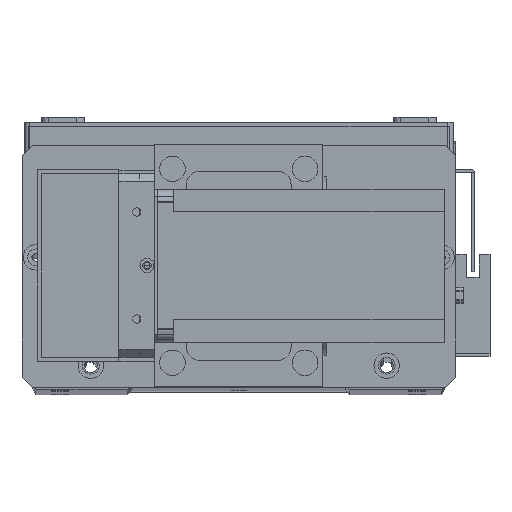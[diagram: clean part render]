
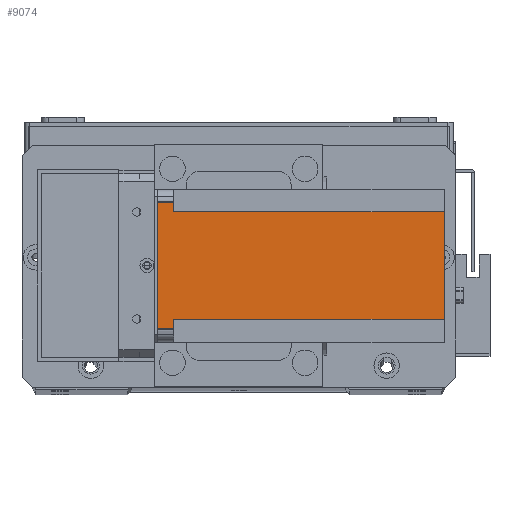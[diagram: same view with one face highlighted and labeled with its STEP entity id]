
A CAD part, top view. The second image highlights one B-rep face of the part: STEP entity #9074.
In plain terms, the highlighted planar face has unit normal (0, 0, 1) as drawn and (-1, 0, 0) by its records, which use the part's own axes.
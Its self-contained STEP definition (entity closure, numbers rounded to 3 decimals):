
#8 = CARTESIAN_POINT ( 'NONE',  ( 0., 55., -6.5 ) ) ;
#726 = ORIENTED_EDGE ( 'NONE', *, *, #11889, .F. ) ;
#1671 = DIRECTION ( 'NONE',  ( 0., 1., 0. ) ) ;
#2475 = DIRECTION ( 'NONE',  ( 0., 0., 1. ) ) ;
#3738 = VERTEX_POINT ( 'NONE', #30699 ) ;
#4177 = VECTOR ( 'NONE', #2475, 1000. ) ;
#4251 = CARTESIAN_POINT ( 'NONE',  ( 0., 55., 0. ) ) ;
#4407 = LINE ( 'NONE', #31592, #16612 ) ;
#4592 = DIRECTION ( 'NONE',  ( 0., 0., -1. ) ) ;
#4980 = CARTESIAN_POINT ( 'NONE',  ( 0., 51., -6.5 ) ) ;
#5082 = VERTEX_POINT ( 'NONE', #16060 ) ;
#8797 = EDGE_CURVE ( 'NONE', #11600, #21113, #8981, .T. ) ;
#8804 = LINE ( 'NONE', #9977, #21065 ) ;
#8981 = LINE ( 'NONE', #11151, #15511 ) ;
#9012 = EDGE_CURVE ( 'NONE', #5082, #11541, #4407, .T. ) ;
#9074 = ADVANCED_FACE ( 'NONE', ( #14361 ), #24598, .T. ) ;
#9206 = LINE ( 'NONE', #22629, #28855 ) ;
#9723 = ORIENTED_EDGE ( 'NONE', *, *, #21047, .T. ) ;
#9854 = CARTESIAN_POINT ( 'NONE',  ( 0., 0., -112.5 ) ) ;
#9977 = CARTESIAN_POINT ( 'NONE',  ( 0., 0., -112.5 ) ) ;
#10089 = ORIENTED_EDGE ( 'NONE', *, *, #8797, .F. ) ;
#10725 = LINE ( 'NONE', #31095, #20706 ) ;
#11151 = CARTESIAN_POINT ( 'NONE',  ( 0., 0., 0. ) ) ;
#11541 = VERTEX_POINT ( 'NONE', #18576 ) ;
#11600 = VERTEX_POINT ( 'NONE', #4251 ) ;
#11889 = EDGE_CURVE ( 'NONE', #26579, #29670, #13464, .T. ) ;
#12250 = CARTESIAN_POINT ( 'NONE',  ( 0., 51., -112.5 ) ) ;
#12323 = DIRECTION ( 'NONE',  ( -1., 0., 0. ) ) ;
#12785 = ORIENTED_EDGE ( 'NONE', *, *, #29794, .F. ) ;
#13464 = LINE ( 'NONE', #12250, #25799 ) ;
#13587 = EDGE_CURVE ( 'NONE', #5082, #21113, #23717, .T. ) ;
#13654 = DIRECTION ( 'NONE',  ( 0., -1., 0. ) ) ;
#14361 = FACE_OUTER_BOUND ( 'NONE', #26021, .T. ) ;
#15330 = DIRECTION ( 'NONE',  ( 0., 0., -1. ) ) ;
#15511 = VECTOR ( 'NONE', #13654, 1000. ) ;
#15539 = AXIS2_PLACEMENT_3D ( 'NONE', #9854, #12323, #29565 ) ;
#16060 = CARTESIAN_POINT ( 'NONE',  ( 0., 5., -6.5 ) ) ;
#16612 = VECTOR ( 'NONE', #24269, 1000. ) ;
#16734 = CARTESIAN_POINT ( 'NONE',  ( 0., 55., -112.5 ) ) ;
#18576 = CARTESIAN_POINT ( 'NONE',  ( 0., 9., -6.5 ) ) ;
#18675 = CARTESIAN_POINT ( 'NONE',  ( 0., 51., -112.5 ) ) ;
#19689 = CARTESIAN_POINT ( 'NONE',  ( 0., 5., -112.5 ) ) ;
#19891 = ORIENTED_EDGE ( 'NONE', *, *, #9012, .F. ) ;
#20706 = VECTOR ( 'NONE', #1671, 1000. ) ;
#21047 = EDGE_CURVE ( 'NONE', #11600, #22751, #22362, .T. ) ;
#21065 = VECTOR ( 'NONE', #22208, 1000. ) ;
#21113 = VERTEX_POINT ( 'NONE', #24312 ) ;
#21599 = ORIENTED_EDGE ( 'NONE', *, *, #13587, .T. ) ;
#22208 = DIRECTION ( 'NONE',  ( 0., -1., 0. ) ) ;
#22362 = LINE ( 'NONE', #16734, #27417 ) ;
#22629 = CARTESIAN_POINT ( 'NONE',  ( 0., 9., -112.5 ) ) ;
#22751 = VERTEX_POINT ( 'NONE', #8 ) ;
#23717 = LINE ( 'NONE', #19689, #4177 ) ;
#24269 = DIRECTION ( 'NONE',  ( 0., 1., 0. ) ) ;
#24312 = CARTESIAN_POINT ( 'NONE',  ( 0., 5., 0. ) ) ;
#24598 = PLANE ( 'NONE',  #15539 ) ;
#24853 = DIRECTION ( 'NONE',  ( 0., 0., 1. ) ) ;
#25799 = VECTOR ( 'NONE', #24853, 1000. ) ;
#26021 = EDGE_LOOP ( 'NONE', ( #19891, #21599, #10089, #9723, #26616, #726, #27914, #12785 ) ) ;
#26579 = VERTEX_POINT ( 'NONE', #18675 ) ;
#26616 = ORIENTED_EDGE ( 'NONE', *, *, #31063, .F. ) ;
#27417 = VECTOR ( 'NONE', #4592, 1000. ) ;
#27914 = ORIENTED_EDGE ( 'NONE', *, *, #31327, .T. ) ;
#28855 = VECTOR ( 'NONE', #15330, 1000. ) ;
#29565 = DIRECTION ( 'NONE',  ( 0., -1., 0. ) ) ;
#29670 = VERTEX_POINT ( 'NONE', #4980 ) ;
#29794 = EDGE_CURVE ( 'NONE', #11541, #3738, #9206, .T. ) ;
#30699 = CARTESIAN_POINT ( 'NONE',  ( 0., 9., -112.5 ) ) ;
#31063 = EDGE_CURVE ( 'NONE', #29670, #22751, #10725, .T. ) ;
#31095 = CARTESIAN_POINT ( 'NONE',  ( 0., 60., -6.5 ) ) ;
#31327 = EDGE_CURVE ( 'NONE', #26579, #3738, #8804, .T. ) ;
#31592 = CARTESIAN_POINT ( 'NONE',  ( 0., 0., -6.5 ) ) ;
